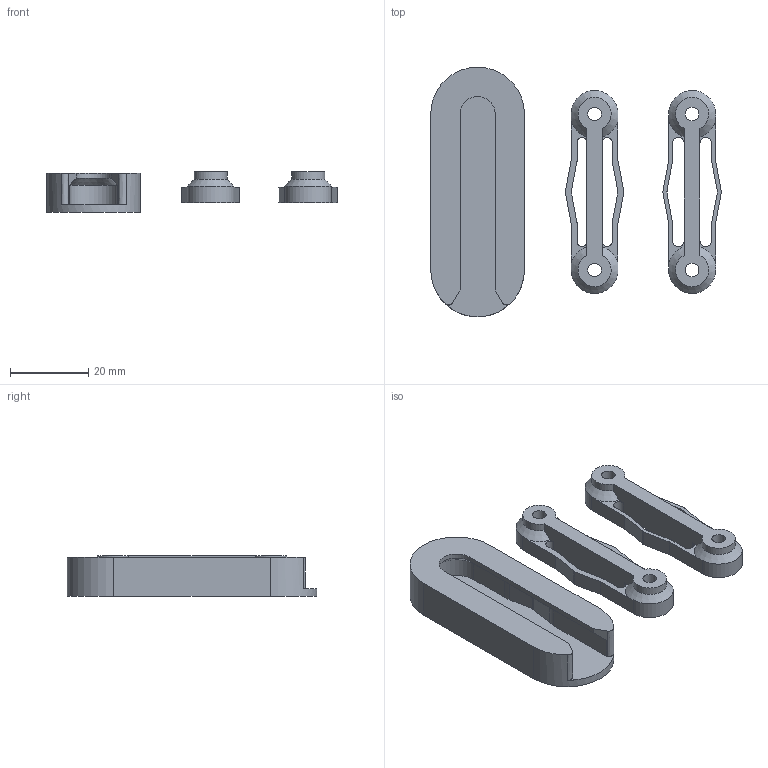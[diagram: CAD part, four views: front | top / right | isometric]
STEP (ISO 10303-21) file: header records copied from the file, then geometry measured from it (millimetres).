
FILE_DESCRIPTION(/* description */ (''),/* implementation_level */ '2;1');
FILE_NAME(/* name */ (''),/* time_stamp */ (''),/* author */ (''),/* organization */ (''),/* preprocessor_version */ 'ST-DEVELOPER v18.1',/* originating_system */ 'Autodesk Translation Framework v10.13.0.1454',/* authorisation */ '');
FILE_SCHEMA (('AUTOMOTIVE_DESIGN { 1 0 10303 214 3 1 1 }'));
Length unit declared in the file: millimetre
Products named in the file (1): Latch
Bounding box: 74.47 x 64 x 10.5 mm (x, y, z)
Volume: 13903 mm3; surface area: 10301.9 mm2
Topology: 3 solids, 3 shells, 122 faces, 344 edges, 224 vertices
Faces by surface type: plane 65, cylinder 46, cone 9, bspline 2
Full cylindrical faces by diameter (mm): 3.5 x4, 6 x4
Entity records: 4095 total; most frequent: CARTESIAN_POINT 837, ORIENTED_EDGE 688, DIRECTION 664, EDGE_CURVE 344, VERTEX_POINT 224, AXIS2_PLACEMENT_3D 223, LINE 218, VECTOR 218
